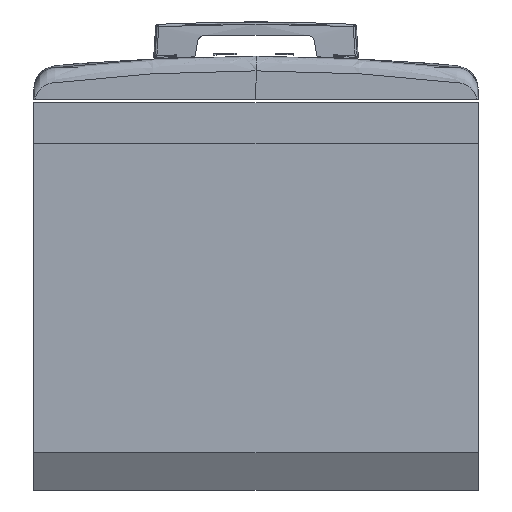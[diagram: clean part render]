
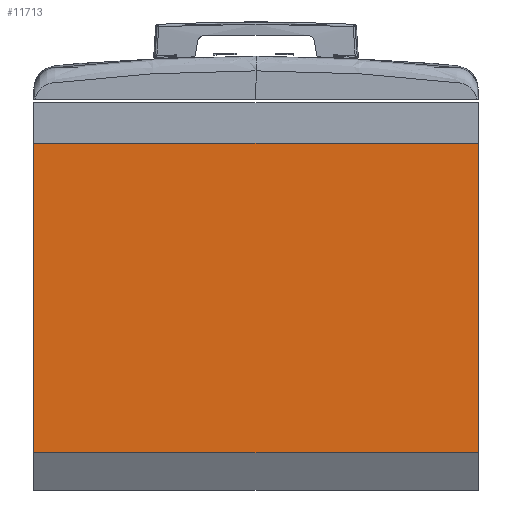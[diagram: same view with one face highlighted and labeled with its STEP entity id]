
A CAD part, front view. The second image highlights one B-rep face of the part: STEP entity #11713.
In plain terms, the highlighted planar face has unit normal (0, -1, 0).
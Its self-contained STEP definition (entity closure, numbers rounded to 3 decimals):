
#420 = VECTOR ( 'NONE', #2221, 1000. ) ;
#619 = CARTESIAN_POINT ( 'NONE',  ( -299., -818.148, 34.817 ) ) ;
#626 = VERTEX_POINT ( 'NONE', #6384 ) ;
#693 = FACE_OUTER_BOUND ( 'NONE', #4354, .T. ) ;
#715 = EDGE_CURVE ( 'NONE', #4380, #12098, #6386, .T. ) ;
#835 = ORIENTED_EDGE ( 'NONE', *, *, #7664, .F. ) ;
#1320 = EDGE_CURVE ( 'NONE', #4380, #5549, #11207, .T. ) ;
#1599 = LINE ( 'NONE', #4311, #6211 ) ;
#1778 = DIRECTION ( 'NONE',  ( 0., 0., -1. ) ) ;
#2221 = DIRECTION ( 'NONE',  ( 0., 0., -1. ) ) ;
#3406 = VECTOR ( 'NONE', #1778, 1000. ) ;
#3541 = CARTESIAN_POINT ( 'NONE',  ( 299., -818.148, 34.817 ) ) ;
#3633 = ORIENTED_EDGE ( 'NONE', *, *, #1320, .F. ) ;
#3956 = DIRECTION ( 'NONE',  ( 0., 0., 1. ) ) ;
#4094 = PLANE ( 'NONE',  #12453 ) ;
#4162 = CARTESIAN_POINT ( 'NONE',  ( 299., -818.148, 0. ) ) ;
#4311 = CARTESIAN_POINT ( 'NONE',  ( 299., -818.148, -382.005 ) ) ;
#4354 = EDGE_LOOP ( 'NONE', ( #7248, #835, #3633, #9207 ) ) ;
#4380 = VERTEX_POINT ( 'NONE', #8027 ) ;
#5549 = VERTEX_POINT ( 'NONE', #6693 ) ;
#6211 = VECTOR ( 'NONE', #12112, 1000. ) ;
#6384 = CARTESIAN_POINT ( 'NONE',  ( -299., -818.148, -382.005 ) ) ;
#6386 = LINE ( 'NONE', #3541, #9539 ) ;
#6693 = CARTESIAN_POINT ( 'NONE',  ( 299., -818.148, -382.005 ) ) ;
#7070 = CARTESIAN_POINT ( 'NONE',  ( 299., -818.148, 0. ) ) ;
#7248 = ORIENTED_EDGE ( 'NONE', *, *, #9717, .T. ) ;
#7664 = EDGE_CURVE ( 'NONE', #5549, #626, #1599, .T. ) ;
#8027 = CARTESIAN_POINT ( 'NONE',  ( 299., -818.148, 34.817 ) ) ;
#9207 = ORIENTED_EDGE ( 'NONE', *, *, #715, .T. ) ;
#9527 = DIRECTION ( 'NONE',  ( -1., 0., 0. ) ) ;
#9539 = VECTOR ( 'NONE', #9527, 1000. ) ;
#9717 = EDGE_CURVE ( 'NONE', #12098, #626, #10548, .T. ) ;
#10548 = LINE ( 'NONE', #11347, #3406 ) ;
#10895 = DIRECTION ( 'NONE',  ( 0., 1., 0. ) ) ;
#11207 = LINE ( 'NONE', #4162, #420 ) ;
#11347 = CARTESIAN_POINT ( 'NONE',  ( -299., -818.148, 0. ) ) ;
#11713 = ADVANCED_FACE ( 'NONE', ( #693 ), #4094, .F. ) ;
#12098 = VERTEX_POINT ( 'NONE', #619 ) ;
#12112 = DIRECTION ( 'NONE',  ( -1., 0., 0. ) ) ;
#12453 = AXIS2_PLACEMENT_3D ( 'NONE', #7070, #10895, #3956 ) ;
